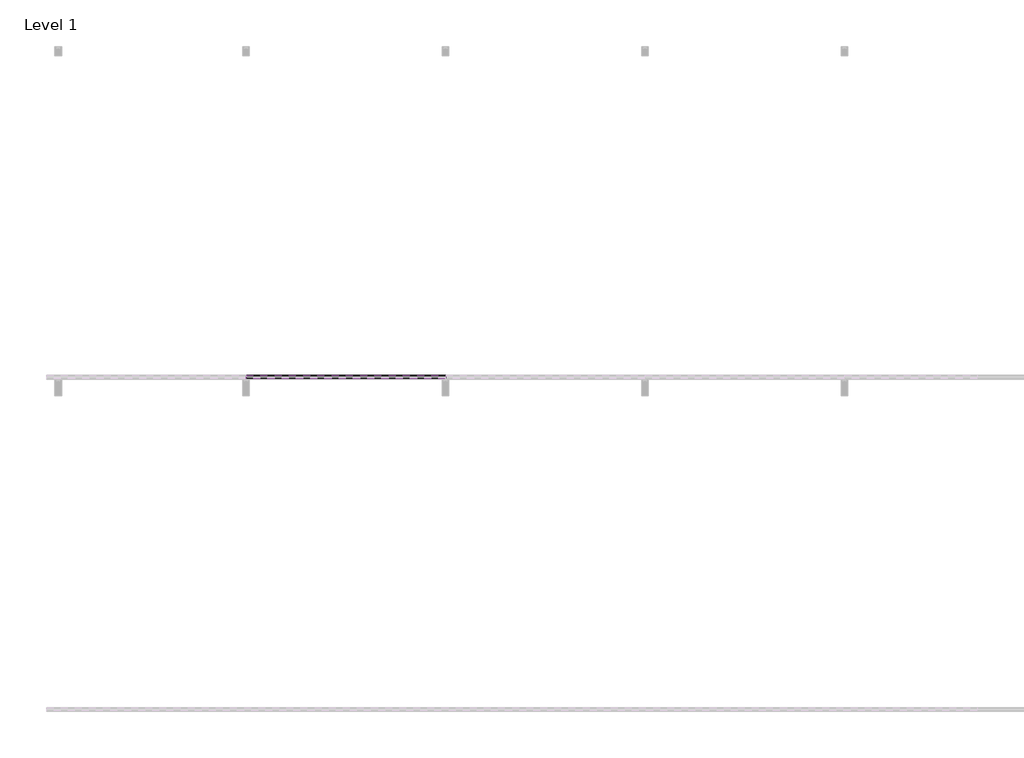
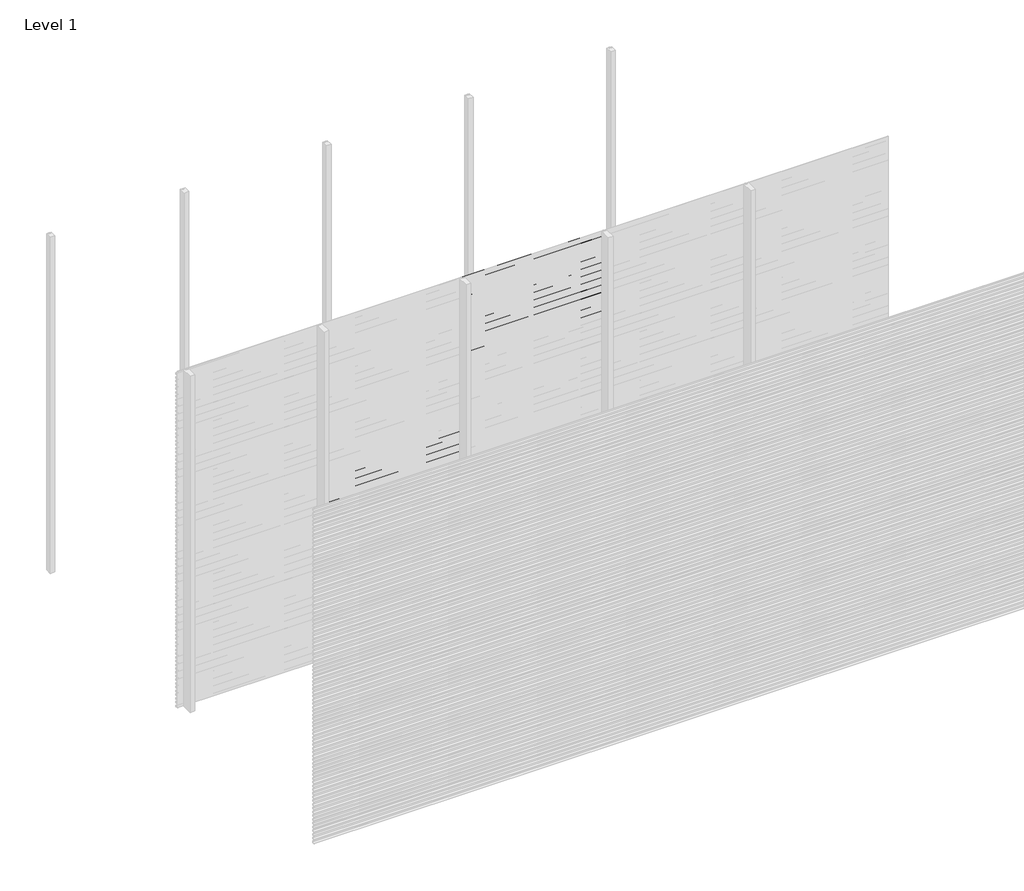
# One storey, part 29 of 77: 72 proxies.
"""IFC4 building model written with IfcOpenShell, lengths in millimetres."""

from ifc_helpers import new_model, si_unit, frame, origin, place, context, project, spatial, polyline, outline, extrude, element, save

model = new_model("IFC4")

# Units and contexts
model_context = context("Model", 3, world=origin())
ifc_project = project(units=[si_unit("LENGTHUNIT", "METRE", prefix="MILLI")], contexts=[model_context])

# Site, building, storey
site = spatial("IfcSite", under=ifc_project)
building = spatial("IfcBuilding", under=site)
storey = spatial("IfcBuildingStorey", under=building, Name="Level 1", Elevation=0.0)

# Proxies
placement = place(None, origin())
element("IfcBuildingElementProxy", 1, Name="Wall Sweeps", at=placement, inside=storey, context=model_context, shape_type="SweptSolid", body=[
    extrude(outline(polyline([(-35978.6, 1607.2359887), (-35998.0, 1618.4366691), (-35998.0, 1631.7), (-35997.0, 1631.7), (-35997.0, 1619.0191057), (-35977.6, 1607.8185105), (-35977.6, 1594.2185105), (-35978.6, 1595.7953129), (-35978.6, 1601.6032062), (-35995.9773817, 1593.5), (-35996.4, 1594.4063078), (-35978.6, 1602.7065841), (-35978.6, 1607.2359887)])), frame((1200.0, 0.0, 0.0), z_axis=(1.0, 0.0, 0.0), x_axis=(0.0, 1.0, 0.0)), (0.0, 0.0, 1.0), 1200.0),
])
element("IfcBuildingElementProxy", 2, Name="Wall Sweeps", at=placement, inside=storey, context=model_context, shape_type="SweptSolid", body=[
    extrude(outline(polyline([(-35978.6, 1573.9359887), (-35998.0, 1585.1366691), (-35998.0, 1598.4), (-35997.0, 1598.4), (-35997.0, 1585.7191057), (-35977.6, 1574.5185105), (-35977.6, 1560.9185105), (-35978.6, 1562.4953129), (-35978.6, 1568.3032062), (-35995.9773817, 1560.2), (-35996.4, 1561.1063078), (-35978.6, 1569.4065841), (-35978.6, 1573.9359887)])), frame((1200.0, 0.0, 0.0), z_axis=(1.0, 0.0, 0.0), x_axis=(0.0, 1.0, 0.0)), (0.0, 0.0, 1.0), 1200.0),
])
element("IfcBuildingElementProxy", 3, Name="Wall Sweeps", at=placement, inside=storey, context=model_context, shape_type="SweptSolid", body=[
    extrude(outline(polyline([(-35978.6, 1540.6359887), (-35998.0, 1551.8366691), (-35998.0, 1565.1), (-35997.0, 1565.1), (-35997.0, 1552.4191057), (-35977.6, 1541.2185105), (-35977.6, 1527.6185105), (-35978.6, 1529.1953129), (-35978.6, 1535.0032062), (-35995.9773817, 1526.9), (-35996.4, 1527.8063078), (-35978.6, 1536.1065841), (-35978.6, 1540.6359887)])), frame((1200.0, 0.0, 0.0), z_axis=(1.0, 0.0, 0.0), x_axis=(0.0, 1.0, 0.0)), (0.0, 0.0, 1.0), 1200.0),
])
element("IfcBuildingElementProxy", 4, Name="Wall Sweeps", at=placement, inside=storey, context=model_context, shape_type="SweptSolid", body=[
    extrude(outline(polyline([(-35978.6, 1507.3359887), (-35998.0, 1518.5366691), (-35998.0, 1531.8), (-35997.0, 1531.8), (-35997.0, 1519.1191057), (-35977.6, 1507.9185105), (-35977.6, 1494.3185105), (-35978.6, 1495.8953129), (-35978.6, 1501.7032062), (-35995.9773817, 1493.6), (-35996.4, 1494.5063078), (-35978.6, 1502.8065841), (-35978.6, 1507.3359887)])), frame((1200.0, 0.0, 0.0), z_axis=(1.0, 0.0, 0.0), x_axis=(0.0, 1.0, 0.0)), (0.0, 0.0, 1.0), 1200.0),
])
element("IfcBuildingElementProxy", 5, Name="Wall Sweeps", at=placement, inside=storey, context=model_context, shape_type="SweptSolid", body=[
    extrude(outline(polyline([(-35978.6, 1474.0359887), (-35998.0, 1485.2366691), (-35998.0, 1498.5), (-35997.0, 1498.5), (-35997.0, 1485.8191057), (-35977.6, 1474.6185105), (-35977.6, 1461.0185105), (-35978.6, 1462.5953129), (-35978.6, 1468.4032062), (-35995.9773817, 1460.3), (-35996.4, 1461.2063078), (-35978.6, 1469.5065841), (-35978.6, 1474.0359887)])), frame((1200.0, 0.0, 0.0), z_axis=(1.0, 0.0, 0.0), x_axis=(0.0, 1.0, 0.0)), (0.0, 0.0, 1.0), 1200.0),
])
element("IfcBuildingElementProxy", 6, Name="Wall Sweeps", at=placement, inside=storey, context=model_context, shape_type="SweptSolid", body=[
    extrude(outline(polyline([(-35978.6, 1440.7359887), (-35998.0, 1451.9366691), (-35998.0, 1465.2), (-35997.0, 1465.2), (-35997.0, 1452.5191057), (-35977.6, 1441.3185105), (-35977.6, 1427.7185105), (-35978.6, 1429.2953129), (-35978.6, 1435.1032062), (-35995.9773817, 1427.0), (-35996.4, 1427.9063078), (-35978.6, 1436.2065841), (-35978.6, 1440.7359887)])), frame((1200.0, 0.0, 0.0), z_axis=(1.0, 0.0, 0.0), x_axis=(0.0, 1.0, 0.0)), (0.0, 0.0, 1.0), 1200.0),
])
element("IfcBuildingElementProxy", 7, Name="Wall Sweeps", at=placement, inside=storey, context=model_context, shape_type="SweptSolid", body=[
    extrude(outline(polyline([(-35978.6, 1407.4359887), (-35998.0, 1418.6366691), (-35998.0, 1431.9), (-35997.0, 1431.9), (-35997.0, 1419.2191057), (-35977.6, 1408.0185105), (-35977.6, 1394.4185105), (-35978.6, 1395.9953129), (-35978.6, 1401.8032062), (-35995.9773817, 1393.7), (-35996.4, 1394.6063078), (-35978.6, 1402.9065841), (-35978.6, 1407.4359887)])), frame((1200.0, 0.0, 0.0), z_axis=(1.0, 0.0, 0.0), x_axis=(0.0, 1.0, 0.0)), (0.0, 0.0, 1.0), 1200.0),
])
element("IfcBuildingElementProxy", 8, Name="Wall Sweeps", at=placement, inside=storey, context=model_context, shape_type="SweptSolid", body=[
    extrude(outline(polyline([(-35978.6, 1374.1359887), (-35998.0, 1385.3366691), (-35998.0, 1398.6), (-35997.0, 1398.6), (-35997.0, 1385.9191057), (-35977.6, 1374.7185105), (-35977.6, 1361.1185105), (-35978.6, 1362.6953129), (-35978.6, 1368.5032062), (-35995.9773817, 1360.4), (-35996.4, 1361.3063078), (-35978.6, 1369.6065841), (-35978.6, 1374.1359887)])), frame((1200.0, 0.0, 0.0), z_axis=(1.0, 0.0, 0.0), x_axis=(0.0, 1.0, 0.0)), (0.0, 0.0, 1.0), 1200.0),
])
element("IfcBuildingElementProxy", 9, Name="Wall Sweeps", at=placement, inside=storey, context=model_context, shape_type="SweptSolid", body=[
    extrude(outline(polyline([(-35978.6, 1340.8359887), (-35998.0, 1352.0366691), (-35998.0, 1365.3), (-35997.0, 1365.3), (-35997.0, 1352.6191057), (-35977.6, 1341.4185105), (-35977.6, 1327.8185105), (-35978.6, 1329.3953129), (-35978.6, 1335.2032062), (-35995.9773817, 1327.1), (-35996.4, 1328.0063078), (-35978.6, 1336.3065841), (-35978.6, 1340.8359887)])), frame((1200.0, 0.0, 0.0), z_axis=(1.0, 0.0, 0.0), x_axis=(0.0, 1.0, 0.0)), (0.0, 0.0, 1.0), 1200.0),
])
element("IfcBuildingElementProxy", 10, Name="Wall Sweeps", at=placement, inside=storey, context=model_context, shape_type="SweptSolid", body=[
    extrude(outline(polyline([(-35978.6, 1307.5359887), (-35998.0, 1318.7366691), (-35998.0, 1332.0), (-35997.0, 1332.0), (-35997.0, 1319.3191057), (-35977.6, 1308.1185105), (-35977.6, 1294.5185105), (-35978.6, 1296.0953129), (-35978.6, 1301.9032062), (-35995.9773817, 1293.8), (-35996.4, 1294.7063078), (-35978.6, 1303.0065841), (-35978.6, 1307.5359887)])), frame((1200.0, 0.0, 0.0), z_axis=(1.0, 0.0, 0.0), x_axis=(0.0, 1.0, 0.0)), (0.0, 0.0, 1.0), 1200.0),
])
element("IfcBuildingElementProxy", 11, Name="Wall Sweeps", at=placement, inside=storey, context=model_context, shape_type="SweptSolid", body=[
    extrude(outline(polyline([(-35978.6, 1274.2359887), (-35998.0, 1285.4366691), (-35998.0, 1298.7), (-35997.0, 1298.7), (-35997.0, 1286.0191057), (-35977.6, 1274.8185105), (-35977.6, 1261.2185105), (-35978.6, 1262.7953129), (-35978.6, 1268.6032062), (-35995.9773817, 1260.5), (-35996.4, 1261.4063078), (-35978.6, 1269.7065841), (-35978.6, 1274.2359887)])), frame((1200.0, 0.0, 0.0), z_axis=(1.0, 0.0, 0.0), x_axis=(0.0, 1.0, 0.0)), (0.0, 0.0, 1.0), 1200.0),
])
element("IfcBuildingElementProxy", 12, Name="Wall Sweeps", at=placement, inside=storey, context=model_context, shape_type="SweptSolid", body=[
    extrude(outline(polyline([(-35978.6, 1240.9359887), (-35998.0, 1252.1366691), (-35998.0, 1265.4), (-35997.0, 1265.4), (-35997.0, 1252.7191057), (-35977.6, 1241.5185105), (-35977.6, 1227.9185105), (-35978.6, 1229.4953129), (-35978.6, 1235.3032062), (-35995.9773817, 1227.2), (-35996.4, 1228.1063078), (-35978.6, 1236.4065841), (-35978.6, 1240.9359887)])), frame((1200.0, 0.0, 0.0), z_axis=(1.0, 0.0, 0.0), x_axis=(0.0, 1.0, 0.0)), (0.0, 0.0, 1.0), 1200.0),
])
element("IfcBuildingElementProxy", 13, Name="Wall Sweeps", at=placement, inside=storey, context=model_context, shape_type="SweptSolid", body=[
    extrude(outline(polyline([(-35978.6, 1207.6359887), (-35998.0, 1218.8366691), (-35998.0, 1232.1), (-35997.0, 1232.1), (-35997.0, 1219.4191057), (-35977.6, 1208.2185105), (-35977.6, 1194.6185105), (-35978.6, 1196.1953129), (-35978.6, 1202.0032062), (-35995.9773817, 1193.9), (-35996.4, 1194.8063078), (-35978.6, 1203.1065841), (-35978.6, 1207.6359887)])), frame((1200.0, 0.0, 0.0), z_axis=(1.0, 0.0, 0.0), x_axis=(0.0, 1.0, 0.0)), (0.0, 0.0, 1.0), 1200.0),
])
element("IfcBuildingElementProxy", 14, Name="Wall Sweeps", at=placement, inside=storey, context=model_context, shape_type="SweptSolid", body=[
    extrude(outline(polyline([(-35978.6, 1174.3359887), (-35998.0, 1185.5366691), (-35998.0, 1198.8), (-35997.0, 1198.8), (-35997.0, 1186.1191057), (-35977.6, 1174.9185105), (-35977.6, 1161.3185105), (-35978.6, 1162.8953129), (-35978.6, 1168.7032062), (-35995.9773817, 1160.6), (-35996.4, 1161.5063078), (-35978.6, 1169.8065841), (-35978.6, 1174.3359887)])), frame((1200.0, 0.0, 0.0), z_axis=(1.0, 0.0, 0.0), x_axis=(0.0, 1.0, 0.0)), (0.0, 0.0, 1.0), 1200.0),
])
element("IfcBuildingElementProxy", 15, Name="Wall Sweeps", at=placement, inside=storey, context=model_context, shape_type="SweptSolid", body=[
    extrude(outline(polyline([(-35978.6, 1141.0359887), (-35998.0, 1152.2366691), (-35998.0, 1165.5), (-35997.0, 1165.5), (-35997.0, 1152.8191057), (-35977.6, 1141.6185105), (-35977.6, 1128.0185105), (-35978.6, 1129.5953129), (-35978.6, 1135.4032062), (-35995.9773817, 1127.3), (-35996.4, 1128.2063078), (-35978.6, 1136.5065841), (-35978.6, 1141.0359887)])), frame((1200.0, 0.0, 0.0), z_axis=(1.0, 0.0, 0.0), x_axis=(0.0, 1.0, 0.0)), (0.0, 0.0, 1.0), 1200.0),
])
element("IfcBuildingElementProxy", 16, Name="Wall Sweeps", at=placement, inside=storey, context=model_context, shape_type="SweptSolid", body=[
    extrude(outline(polyline([(-35978.6, 1107.7359887), (-35998.0, 1118.9366691), (-35998.0, 1132.2), (-35997.0, 1132.2), (-35997.0, 1119.5191057), (-35977.6, 1108.3185105), (-35977.6, 1094.7185105), (-35978.6, 1096.2953129), (-35978.6, 1102.1032062), (-35995.9773817, 1094.0), (-35996.4, 1094.9063078), (-35978.6, 1103.2065841), (-35978.6, 1107.7359887)])), frame((1200.0, 0.0, 0.0), z_axis=(1.0, 0.0, 0.0), x_axis=(0.0, 1.0, 0.0)), (0.0, 0.0, 1.0), 1200.0),
])
element("IfcBuildingElementProxy", 17, Name="Wall Sweeps", at=placement, inside=storey, context=model_context, shape_type="SweptSolid", body=[
    extrude(outline(polyline([(-35978.6, 1074.4359887), (-35998.0, 1085.6366691), (-35998.0, 1098.9), (-35997.0, 1098.9), (-35997.0, 1086.2191057), (-35977.6, 1075.0185105), (-35977.6, 1061.4185105), (-35978.6, 1062.9953129), (-35978.6, 1068.8032062), (-35995.9773817, 1060.7), (-35996.4, 1061.6063078), (-35978.6, 1069.9065841), (-35978.6, 1074.4359887)])), frame((1200.0, 0.0, 0.0), z_axis=(1.0, 0.0, 0.0), x_axis=(0.0, 1.0, 0.0)), (0.0, 0.0, 1.0), 1200.0),
])
element("IfcBuildingElementProxy", 18, Name="Wall Sweeps", at=placement, inside=storey, context=model_context, shape_type="SweptSolid", body=[
    extrude(outline(polyline([(-35978.6, 1041.1359887), (-35998.0, 1052.3366691), (-35998.0, 1065.6), (-35997.0, 1065.6), (-35997.0, 1052.9191057), (-35977.6, 1041.7185105), (-35977.6, 1028.1185105), (-35978.6, 1029.6953129), (-35978.6, 1035.5032062), (-35995.9773817, 1027.4), (-35996.4, 1028.3063078), (-35978.6, 1036.6065841), (-35978.6, 1041.1359887)])), frame((1200.0, 0.0, 0.0), z_axis=(1.0, 0.0, 0.0), x_axis=(0.0, 1.0, 0.0)), (0.0, 0.0, 1.0), 1200.0),
])
element("IfcBuildingElementProxy", 19, Name="Wall Sweeps", at=placement, inside=storey, context=model_context, shape_type="SweptSolid", body=[
    extrude(outline(polyline([(-35978.6, 1007.8359887), (-35998.0, 1019.0366691), (-35998.0, 1032.3), (-35997.0, 1032.3), (-35997.0, 1019.6191057), (-35977.6, 1008.4185105), (-35977.6, 994.8185105), (-35978.6, 996.3953129), (-35978.6, 1002.2032062), (-35995.9773817, 994.1), (-35996.4, 995.0063078), (-35978.6, 1003.3065841), (-35978.6, 1007.8359887)])), frame((1200.0, 0.0, 0.0), z_axis=(1.0, 0.0, 0.0), x_axis=(0.0, 1.0, 0.0)), (0.0, 0.0, 1.0), 1200.0),
])
element("IfcBuildingElementProxy", 20, Name="Wall Sweeps", at=placement, inside=storey, context=model_context, shape_type="SweptSolid", body=[
    extrude(outline(polyline([(-35978.6, 974.5359887), (-35998.0, 985.7366691), (-35998.0, 999.0), (-35997.0, 999.0), (-35997.0, 986.3191057), (-35977.6, 975.1185105), (-35977.6, 961.5185105), (-35978.6, 963.0953129), (-35978.6, 968.9032062), (-35995.9773817, 960.8), (-35996.4, 961.7063078), (-35978.6, 970.0065841), (-35978.6, 974.5359887)])), frame((1200.0, 0.0, 0.0), z_axis=(1.0, 0.0, 0.0), x_axis=(0.0, 1.0, 0.0)), (0.0, 0.0, 1.0), 1200.0),
])
element("IfcBuildingElementProxy", 21, Name="Wall Sweeps", at=placement, inside=storey, context=model_context, shape_type="SweptSolid", body=[
    extrude(outline(polyline([(-35978.6, 941.2359887), (-35998.0, 952.4366691), (-35998.0, 965.7), (-35997.0, 965.7), (-35997.0, 953.0191057), (-35977.6, 941.8185105), (-35977.6, 928.2185105), (-35978.6, 929.7953129), (-35978.6, 935.6032062), (-35995.9773817, 927.5), (-35996.4, 928.4063078), (-35978.6, 936.7065841), (-35978.6, 941.2359887)])), frame((1200.0, 0.0, 0.0), z_axis=(1.0, 0.0, 0.0), x_axis=(0.0, 1.0, 0.0)), (0.0, 0.0, 1.0), 1200.0),
])
element("IfcBuildingElementProxy", 22, Name="Wall Sweeps", at=placement, inside=storey, context=model_context, shape_type="SweptSolid", body=[
    extrude(outline(polyline([(-35978.6, 907.9359887), (-35998.0, 919.1366691), (-35998.0, 932.4), (-35997.0, 932.4), (-35997.0, 919.7191057), (-35977.6, 908.5185105), (-35977.6, 894.9185105), (-35978.6, 896.4953129), (-35978.6, 902.3032062), (-35995.9773817, 894.2), (-35996.4, 895.1063078), (-35978.6, 903.4065841), (-35978.6, 907.9359887)])), frame((1200.0, 0.0, 0.0), z_axis=(1.0, 0.0, 0.0), x_axis=(0.0, 1.0, 0.0)), (0.0, 0.0, 1.0), 1200.0),
])
element("IfcBuildingElementProxy", 23, Name="Wall Sweeps", at=placement, inside=storey, context=model_context, shape_type="SweptSolid", body=[
    extrude(outline(polyline([(-35978.6, 874.6359887), (-35998.0, 885.8366691), (-35998.0, 899.1), (-35997.0, 899.1), (-35997.0, 886.4191057), (-35977.6, 875.2185105), (-35977.6, 861.6185105), (-35978.6, 863.1953129), (-35978.6, 869.0032062), (-35995.9773817, 860.9), (-35996.4, 861.8063078), (-35978.6, 870.1065841), (-35978.6, 874.6359887)])), frame((1200.0, 0.0, 0.0), z_axis=(1.0, 0.0, 0.0), x_axis=(0.0, 1.0, 0.0)), (0.0, 0.0, 1.0), 1200.0),
])
element("IfcBuildingElementProxy", 24, Name="Wall Sweeps", at=placement, inside=storey, context=model_context, shape_type="SweptSolid", body=[
    extrude(outline(polyline([(-35978.6, 841.3359887), (-35998.0, 852.5366691), (-35998.0, 865.8), (-35997.0, 865.8), (-35997.0, 853.1191057), (-35977.6, 841.9185105), (-35977.6, 828.3185105), (-35978.6, 829.8953129), (-35978.6, 835.7032062), (-35995.9773817, 827.6), (-35996.4, 828.5063078), (-35978.6, 836.8065841), (-35978.6, 841.3359887)])), frame((1200.0, 0.0, 0.0), z_axis=(1.0, 0.0, 0.0), x_axis=(0.0, 1.0, 0.0)), (0.0, 0.0, 1.0), 1200.0),
])
element("IfcBuildingElementProxy", 25, Name="Wall Sweeps", at=placement, inside=storey, context=model_context, shape_type="SweptSolid", body=[
    extrude(outline(polyline([(-35978.6, 808.0359887), (-35998.0, 819.2366691), (-35998.0, 832.5), (-35997.0, 832.5), (-35997.0, 819.8191057), (-35977.6, 808.6185105), (-35977.6, 795.0185105), (-35978.6, 796.5953129), (-35978.6, 802.4032062), (-35995.9773817, 794.3), (-35996.4, 795.2063078), (-35978.6, 803.5065841), (-35978.6, 808.0359887)])), frame((1200.0, 0.0, 0.0), z_axis=(1.0, 0.0, 0.0), x_axis=(0.0, 1.0, 0.0)), (0.0, 0.0, 1.0), 1200.0),
])
element("IfcBuildingElementProxy", 26, Name="Wall Sweeps", at=placement, inside=storey, context=model_context, shape_type="SweptSolid", body=[
    extrude(outline(polyline([(-35978.6, 774.7359887), (-35998.0, 785.9366691), (-35998.0, 799.2), (-35997.0, 799.2), (-35997.0, 786.5191057), (-35977.6, 775.3185105), (-35977.6, 761.7185105), (-35978.6, 763.2953129), (-35978.6, 769.1032062), (-35995.9773817, 761.0), (-35996.4, 761.9063078), (-35978.6, 770.2065841), (-35978.6, 774.7359887)])), frame((1200.0, 0.0, 0.0), z_axis=(1.0, 0.0, 0.0), x_axis=(0.0, 1.0, 0.0)), (0.0, 0.0, 1.0), 1200.0),
])
element("IfcBuildingElementProxy", 27, Name="Wall Sweeps", at=placement, inside=storey, context=model_context, shape_type="SweptSolid", body=[
    extrude(outline(polyline([(-35978.6, 741.4359887), (-35998.0, 752.6366691), (-35998.0, 765.9), (-35997.0, 765.9), (-35997.0, 753.2191057), (-35977.6, 742.0185105), (-35977.6, 728.4185105), (-35978.6, 729.9953129), (-35978.6, 735.8032062), (-35995.9773817, 727.7), (-35996.4, 728.6063078), (-35978.6, 736.9065841), (-35978.6, 741.4359887)])), frame((1200.0, 0.0, 0.0), z_axis=(1.0, 0.0, 0.0), x_axis=(0.0, 1.0, 0.0)), (0.0, 0.0, 1.0), 1200.0),
])
element("IfcBuildingElementProxy", 28, Name="Wall Sweeps", at=placement, inside=storey, context=model_context, shape_type="SweptSolid", body=[
    extrude(outline(polyline([(-35978.6, 708.1359887), (-35998.0, 719.3366691), (-35998.0, 732.6), (-35997.0, 732.6), (-35997.0, 719.9191057), (-35977.6, 708.7185105), (-35977.6, 695.1185105), (-35978.6, 696.6953129), (-35978.6, 702.5032062), (-35995.9773817, 694.4), (-35996.4, 695.3063078), (-35978.6, 703.6065841), (-35978.6, 708.1359887)])), frame((1200.0, 0.0, 0.0), z_axis=(1.0, 0.0, 0.0), x_axis=(0.0, 1.0, 0.0)), (0.0, 0.0, 1.0), 1200.0),
])
element("IfcBuildingElementProxy", 29, Name="Wall Sweeps", at=placement, inside=storey, context=model_context, shape_type="SweptSolid", body=[
    extrude(outline(polyline([(-35978.6, 674.8359887), (-35998.0, 686.0366691), (-35998.0, 699.3), (-35997.0, 699.3), (-35997.0, 686.6191057), (-35977.6, 675.4185105), (-35977.6, 661.8185105), (-35978.6, 663.3953129), (-35978.6, 669.2032062), (-35995.9773817, 661.1), (-35996.4, 662.0063078), (-35978.6, 670.3065841), (-35978.6, 674.8359887)])), frame((1200.0, 0.0, 0.0), z_axis=(1.0, 0.0, 0.0), x_axis=(0.0, 1.0, 0.0)), (0.0, 0.0, 1.0), 1200.0),
])
element("IfcBuildingElementProxy", 30, Name="Wall Sweeps", at=placement, inside=storey, context=model_context, shape_type="SweptSolid", body=[
    extrude(outline(polyline([(-35978.6, 641.5359887), (-35998.0, 652.7366691), (-35998.0, 666.0), (-35997.0, 666.0), (-35997.0, 653.3191057), (-35977.6, 642.1185105), (-35977.6, 628.5185105), (-35978.6, 630.0953129), (-35978.6, 635.9032062), (-35995.9773817, 627.8), (-35996.4, 628.7063078), (-35978.6, 637.0065841), (-35978.6, 641.5359887)])), frame((1200.0, 0.0, 0.0), z_axis=(1.0, 0.0, 0.0), x_axis=(0.0, 1.0, 0.0)), (0.0, 0.0, 1.0), 1200.0),
])
element("IfcBuildingElementProxy", 31, Name="Wall Sweeps", at=placement, inside=storey, context=model_context, shape_type="SweptSolid", body=[
    extrude(outline(polyline([(-35978.6, 608.2359887), (-35998.0, 619.4366691), (-35998.0, 632.7), (-35997.0, 632.7), (-35997.0, 620.0191057), (-35977.6, 608.8185105), (-35977.6, 595.2185105), (-35978.6, 596.7953129), (-35978.6, 602.6032062), (-35995.9773817, 594.5), (-35996.4, 595.4063078), (-35978.6, 603.7065841), (-35978.6, 608.2359887)])), frame((1200.0, 0.0, 0.0), z_axis=(1.0, 0.0, 0.0), x_axis=(0.0, 1.0, 0.0)), (0.0, 0.0, 1.0), 1200.0),
])
element("IfcBuildingElementProxy", 32, Name="Wall Sweeps", at=placement, inside=storey, context=model_context, shape_type="SweptSolid", body=[
    extrude(outline(polyline([(-35978.6, 574.9359887), (-35998.0, 586.1366691), (-35998.0, 599.4), (-35997.0, 599.4), (-35997.0, 586.7191057), (-35977.6, 575.5185105), (-35977.6, 561.9185105), (-35978.6, 563.4953129), (-35978.6, 569.3032062), (-35995.9773817, 561.2), (-35996.4, 562.1063078), (-35978.6, 570.4065841), (-35978.6, 574.9359887)])), frame((1200.0, 0.0, 0.0), z_axis=(1.0, 0.0, 0.0), x_axis=(0.0, 1.0, 0.0)), (0.0, 0.0, 1.0), 1200.0),
])
element("IfcBuildingElementProxy", 33, Name="Wall Sweeps", at=placement, inside=storey, context=model_context, shape_type="SweptSolid", body=[
    extrude(outline(polyline([(-35978.6, 541.6359887), (-35998.0, 552.8366691), (-35998.0, 566.1), (-35997.0, 566.1), (-35997.0, 553.4191057), (-35977.6, 542.2185105), (-35977.6, 528.6185105), (-35978.6, 530.1953129), (-35978.6, 536.0032062), (-35995.9773817, 527.9), (-35996.4, 528.8063078), (-35978.6, 537.1065841), (-35978.6, 541.6359887)])), frame((1200.0, 0.0, 0.0), z_axis=(1.0, 0.0, 0.0), x_axis=(0.0, 1.0, 0.0)), (0.0, 0.0, 1.0), 1200.0),
])
element("IfcBuildingElementProxy", 34, Name="Wall Sweeps", at=placement, inside=storey, context=model_context, shape_type="SweptSolid", body=[
    extrude(outline(polyline([(-35978.6, 508.3359887), (-35998.0, 519.5366691), (-35998.0, 532.8), (-35997.0, 532.8), (-35997.0, 520.1191057), (-35977.6, 508.9185105), (-35977.6, 495.3185105), (-35978.6, 496.8953129), (-35978.6, 502.7032062), (-35995.9773817, 494.6), (-35996.4, 495.5063078), (-35978.6, 503.8065841), (-35978.6, 508.3359887)])), frame((1200.0, 0.0, 0.0), z_axis=(1.0, 0.0, 0.0), x_axis=(0.0, 1.0, 0.0)), (0.0, 0.0, 1.0), 1200.0),
])
element("IfcBuildingElementProxy", 35, Name="Wall Sweeps", at=placement, inside=storey, context=model_context, shape_type="SweptSolid", body=[
    extrude(outline(polyline([(-35978.6, 475.0359887), (-35998.0, 486.2366691), (-35998.0, 499.5), (-35997.0, 499.5), (-35997.0, 486.8191057), (-35977.6, 475.6185105), (-35977.6, 462.0185105), (-35978.6, 463.5953129), (-35978.6, 469.4032062), (-35995.9773817, 461.3), (-35996.4, 462.2063078), (-35978.6, 470.5065841), (-35978.6, 475.0359887)])), frame((1200.0, 0.0, 0.0), z_axis=(1.0, 0.0, 0.0), x_axis=(0.0, 1.0, 0.0)), (0.0, 0.0, 1.0), 1200.0),
])
element("IfcBuildingElementProxy", 36, Name="Wall Sweeps", at=placement, inside=storey, context=model_context, shape_type="SweptSolid", body=[
    extrude(outline(polyline([(-35978.6, 441.7359887), (-35998.0, 452.9366691), (-35998.0, 466.2), (-35997.0, 466.2), (-35997.0, 453.5191057), (-35977.6, 442.3185105), (-35977.6, 428.7185105), (-35978.6, 430.2953129), (-35978.6, 436.1032062), (-35995.9773817, 428.0), (-35996.4, 428.9063078), (-35978.6, 437.2065841), (-35978.6, 441.7359887)])), frame((1200.0, 0.0, 0.0), z_axis=(1.0, 0.0, 0.0), x_axis=(0.0, 1.0, 0.0)), (0.0, 0.0, 1.0), 1200.0),
])
element("IfcBuildingElementProxy", 37, Name="Wall Sweeps", at=placement, inside=storey, context=model_context, shape_type="SweptSolid", body=[
    extrude(outline(polyline([(-35978.6, 408.4359887), (-35998.0, 419.6366691), (-35998.0, 432.9), (-35997.0, 432.9), (-35997.0, 420.2191057), (-35977.6, 409.0185105), (-35977.6, 395.4185105), (-35978.6, 396.9953129), (-35978.6, 402.8032062), (-35995.9773817, 394.7), (-35996.4, 395.6063078), (-35978.6, 403.9065841), (-35978.6, 408.4359887)])), frame((1200.0, 0.0, 0.0), z_axis=(1.0, 0.0, 0.0), x_axis=(0.0, 1.0, 0.0)), (0.0, 0.0, 1.0), 1200.0),
])
element("IfcBuildingElementProxy", 38, Name="Wall Sweeps", at=placement, inside=storey, context=model_context, shape_type="SweptSolid", body=[
    extrude(outline(polyline([(-35978.6, 375.1359887), (-35998.0, 386.3366691), (-35998.0, 399.6), (-35997.0, 399.6), (-35997.0, 386.9191057), (-35977.6, 375.7185105), (-35977.6, 362.1185105), (-35978.6, 363.6953129), (-35978.6, 369.5032062), (-35995.9773817, 361.4), (-35996.4, 362.3063078), (-35978.6, 370.6065841), (-35978.6, 375.1359887)])), frame((1200.0, 0.0, 0.0), z_axis=(1.0, 0.0, 0.0), x_axis=(0.0, 1.0, 0.0)), (0.0, 0.0, 1.0), 1200.0),
])
element("IfcBuildingElementProxy", 39, Name="Wall Sweeps", at=placement, inside=storey, context=model_context, shape_type="SweptSolid", body=[
    extrude(outline(polyline([(-35978.6, 341.8359887), (-35998.0, 353.0366691), (-35998.0, 366.3), (-35997.0, 366.3), (-35997.0, 353.6191057), (-35977.6, 342.4185105), (-35977.6, 328.8185105), (-35978.6, 330.3953129), (-35978.6, 336.2032062), (-35995.9773817, 328.1), (-35996.4, 329.0063078), (-35978.6, 337.3065841), (-35978.6, 341.8359887)])), frame((1200.0, 0.0, 0.0), z_axis=(1.0, 0.0, 0.0), x_axis=(0.0, 1.0, 0.0)), (0.0, 0.0, 1.0), 1200.0),
])
element("IfcBuildingElementProxy", 40, Name="Wall Sweeps", at=placement, inside=storey, context=model_context, shape_type="SweptSolid", body=[
    extrude(outline(polyline([(-35978.6, 308.5359887), (-35998.0, 319.7366691), (-35998.0, 333.0), (-35997.0, 333.0), (-35997.0, 320.3191057), (-35977.6, 309.1185105), (-35977.6, 295.5185105), (-35978.6, 297.0953129), (-35978.6, 302.9032062), (-35995.9773817, 294.8), (-35996.4, 295.7063078), (-35978.6, 304.0065841), (-35978.6, 308.5359887)])), frame((1200.0, 0.0, 0.0), z_axis=(1.0, 0.0, 0.0), x_axis=(0.0, 1.0, 0.0)), (0.0, 0.0, 1.0), 1200.0),
])
element("IfcBuildingElementProxy", 41, Name="Wall Sweeps", at=placement, inside=storey, context=model_context, shape_type="SweptSolid", body=[
    extrude(outline(polyline([(-35978.6, 275.2359887), (-35998.0, 286.4366691), (-35998.0, 299.7), (-35997.0, 299.7), (-35997.0, 287.0191057), (-35977.6, 275.8185105), (-35977.6, 262.2185105), (-35978.6, 263.7953129), (-35978.6, 269.6032062), (-35995.9773817, 261.5), (-35996.4, 262.4063078), (-35978.6, 270.7065841), (-35978.6, 275.2359887)])), frame((1200.0, 0.0, 0.0), z_axis=(1.0, 0.0, 0.0), x_axis=(0.0, 1.0, 0.0)), (0.0, 0.0, 1.0), 1200.0),
])
element("IfcBuildingElementProxy", 42, Name="Wall Sweeps", at=placement, inside=storey, context=model_context, shape_type="SweptSolid", body=[
    extrude(outline(polyline([(-35978.6, 241.9359887), (-35998.0, 253.1366691), (-35998.0, 266.4), (-35997.0, 266.4), (-35997.0, 253.7191057), (-35977.6, 242.5185105), (-35977.6, 228.9185105), (-35978.6, 230.4953129), (-35978.6, 236.3032062), (-35995.9773817, 228.2), (-35996.4, 229.1063078), (-35978.6, 237.4065841), (-35978.6, 241.9359887)])), frame((1200.0, 0.0, 0.0), z_axis=(1.0, 0.0, 0.0), x_axis=(0.0, 1.0, 0.0)), (0.0, 0.0, 1.0), 1200.0),
])
element("IfcBuildingElementProxy", 43, Name="Wall Sweeps", at=placement, inside=storey, context=model_context, shape_type="SweptSolid", body=[
    extrude(outline(polyline([(-35978.6, 208.6359887), (-35998.0, 219.8366691), (-35998.0, 233.1), (-35997.0, 233.1), (-35997.0, 220.4191057), (-35977.6, 209.2185105), (-35977.6, 195.6185105), (-35978.6, 197.1953129), (-35978.6, 203.0032062), (-35995.9773817, 194.9), (-35996.4, 195.8063078), (-35978.6, 204.1065841), (-35978.6, 208.6359887)])), frame((1200.0, 0.0, 0.0), z_axis=(1.0, 0.0, 0.0), x_axis=(0.0, 1.0, 0.0)), (0.0, 0.0, 1.0), 1200.0),
])
element("IfcBuildingElementProxy", 44, Name="Wall Sweeps", at=placement, inside=storey, context=model_context, shape_type="SweptSolid", body=[
    extrude(outline(polyline([(-35978.6, 175.3359887), (-35998.0, 186.5366691), (-35998.0, 199.8), (-35997.0, 199.8), (-35997.0, 187.1191057), (-35977.6, 175.9185105), (-35977.6, 162.3185105), (-35978.6, 163.8953129), (-35978.6, 169.7032062), (-35995.9773817, 161.6), (-35996.4, 162.5063078), (-35978.6, 170.8065841), (-35978.6, 175.3359887)])), frame((1200.0, 0.0, 0.0), z_axis=(1.0, 0.0, 0.0), x_axis=(0.0, 1.0, 0.0)), (0.0, 0.0, 1.0), 1200.0),
])
element("IfcBuildingElementProxy", 45, Name="Wall Sweeps", at=placement, inside=storey, context=model_context, shape_type="SweptSolid", body=[
    extrude(outline(polyline([(-35978.6, 142.0359887), (-35998.0, 153.2366691), (-35998.0, 166.5), (-35997.0, 166.5), (-35997.0, 153.8191057), (-35977.6, 142.6185105), (-35977.6, 129.0185105), (-35978.6, 130.5953129), (-35978.6, 136.4032062), (-35995.9773817, 128.3), (-35996.4, 129.2063078), (-35978.6, 137.5065841), (-35978.6, 142.0359887)])), frame((1200.0, 0.0, 0.0), z_axis=(1.0, 0.0, 0.0), x_axis=(0.0, 1.0, 0.0)), (0.0, 0.0, 1.0), 1200.0),
])
element("IfcBuildingElementProxy", 46, Name="Wall Sweeps", at=placement, inside=storey, context=model_context, shape_type="SweptSolid", body=[
    extrude(outline(polyline([(-35978.6, 108.7359887), (-35998.0, 119.9366691), (-35998.0, 133.2), (-35997.0, 133.2), (-35997.0, 120.5191057), (-35977.6, 109.3185105), (-35977.6, 95.7185105), (-35978.6, 97.2953129), (-35978.6, 103.1032062), (-35995.9773817, 95.0), (-35996.4, 95.9063078), (-35978.6, 104.2065841), (-35978.6, 108.7359887)])), frame((1200.0, 0.0, 0.0), z_axis=(1.0, 0.0, 0.0), x_axis=(0.0, 1.0, 0.0)), (0.0, 0.0, 1.0), 1200.0),
])
element("IfcBuildingElementProxy", 47, Name="Wall Sweeps", at=placement, inside=storey, context=model_context, shape_type="SweptSolid", body=[
    extrude(outline(polyline([(-35978.6, 75.4359887), (-35998.0, 86.6366691), (-35998.0, 99.9), (-35997.0, 99.9), (-35997.0, 87.2191057), (-35977.6, 76.0185105), (-35977.6, 62.4185105), (-35978.6, 63.9953129), (-35978.6, 69.8032062), (-35995.9773817, 61.7), (-35996.4, 62.6063078), (-35978.6, 70.9065841), (-35978.6, 75.4359887)])), frame((1200.0, 0.0, 0.0), z_axis=(1.0, 0.0, 0.0), x_axis=(0.0, 1.0, 0.0)), (0.0, 0.0, 1.0), 1200.0),
])
element("IfcBuildingElementProxy", 48, Name="Wall Sweeps", at=placement, inside=storey, context=model_context, shape_type="SweptSolid", body=[
    extrude(outline(polyline([(-35978.6, 42.1359887), (-35998.0, 53.3366691), (-35998.0, 66.6), (-35997.0, 66.6), (-35997.0, 53.9191057), (-35977.6, 42.7185105), (-35977.6, 29.1185105), (-35978.6, 30.6953129), (-35978.6, 36.5032062), (-35995.9773817, 28.4), (-35996.4, 29.3063078), (-35978.6, 37.6065841), (-35978.6, 42.1359887)])), frame((1200.0, 0.0, 0.0), z_axis=(1.0, 0.0, 0.0), x_axis=(0.0, 1.0, 0.0)), (0.0, 0.0, 1.0), 1200.0),
])
element("IfcBuildingElementProxy", 49, Name="Wall Sweeps", at=placement, inside=storey, context=model_context, shape_type="SweptSolid", body=[
    extrude(outline(polyline([(-35978.6, 8.8359887), (-35998.0, 20.0366691), (-35998.0, 33.3), (-35997.0, 33.3), (-35997.0, 20.6191057), (-35977.6, 9.4185105), (-35977.6, -4.1814895), (-35978.6, -2.6046871), (-35978.6, 3.2032062), (-35995.9773817, -4.9), (-35996.4, -3.9936922), (-35978.6, 4.3065841), (-35978.6, 8.8359887)])), frame((1200.0, 0.0, 0.0), z_axis=(1.0, 0.0, 0.0), x_axis=(0.0, 1.0, 0.0)), (0.0, 0.0, 1.0), 1200.0),
])
element("IfcBuildingElementProxy", 50, Name="Wall Sweeps", at=placement, inside=storey, context=model_context, shape_type="SweptSolid", body=[
    extrude(outline(polyline([(-35978.6, 2972.5359887), (-35998.0, 2983.7366691), (-35998.0, 2997.0), (-35997.0, 2997.0), (-35997.0, 2984.3191057), (-35977.6, 2973.1185105), (-35977.6, 2959.5185105), (-35978.6, 2961.0953129), (-35978.6, 2966.9032062), (-35995.9773817, 2958.8), (-35996.4, 2959.7063078), (-35978.6, 2968.0065841), (-35978.6, 2972.5359887)])), frame((2400.0, 0.0, 0.0), z_axis=(1.0, 0.0, 0.0), x_axis=(0.0, 1.0, 0.0)), (0.0, 0.0, 1.0), 1200.0),
])
element("IfcBuildingElementProxy", 51, Name="Wall Sweeps", at=placement, inside=storey, context=model_context, shape_type="SweptSolid", body=[
    extrude(outline(polyline([(-35978.6, 2939.2359887), (-35998.0, 2950.4366691), (-35998.0, 2963.7), (-35997.0, 2963.7), (-35997.0, 2951.0191057), (-35977.6, 2939.8185105), (-35977.6, 2926.2185105), (-35978.6, 2927.7953129), (-35978.6, 2933.6032062), (-35995.9773817, 2925.5), (-35996.4, 2926.4063078), (-35978.6, 2934.7065841), (-35978.6, 2939.2359887)])), frame((2400.0, 0.0, 0.0), z_axis=(1.0, 0.0, 0.0), x_axis=(0.0, 1.0, 0.0)), (0.0, 0.0, 1.0), 1200.0),
])
element("IfcBuildingElementProxy", 52, Name="Wall Sweeps", at=placement, inside=storey, context=model_context, shape_type="SweptSolid", body=[
    extrude(outline(polyline([(-35978.6, 2905.9359887), (-35998.0, 2917.1366691), (-35998.0, 2930.4), (-35997.0, 2930.4), (-35997.0, 2917.7191057), (-35977.6, 2906.5185105), (-35977.6, 2892.9185105), (-35978.6, 2894.4953129), (-35978.6, 2900.3032062), (-35995.9773817, 2892.2), (-35996.4, 2893.1063078), (-35978.6, 2901.4065841), (-35978.6, 2905.9359887)])), frame((2400.0, 0.0, 0.0), z_axis=(1.0, 0.0, 0.0), x_axis=(0.0, 1.0, 0.0)), (0.0, 0.0, 1.0), 1200.0),
])
element("IfcBuildingElementProxy", 53, Name="Wall Sweeps", at=placement, inside=storey, context=model_context, shape_type="SweptSolid", body=[
    extrude(outline(polyline([(-35978.6, 2872.6359887), (-35998.0, 2883.8366691), (-35998.0, 2897.1), (-35997.0, 2897.1), (-35997.0, 2884.4191057), (-35977.6, 2873.2185105), (-35977.6, 2859.6185105), (-35978.6, 2861.1953129), (-35978.6, 2867.0032062), (-35995.9773817, 2858.9), (-35996.4, 2859.8063078), (-35978.6, 2868.1065841), (-35978.6, 2872.6359887)])), frame((2400.0, 0.0, 0.0), z_axis=(1.0, 0.0, 0.0), x_axis=(0.0, 1.0, 0.0)), (0.0, 0.0, 1.0), 1200.0),
])
element("IfcBuildingElementProxy", 54, Name="Wall Sweeps", at=placement, inside=storey, context=model_context, shape_type="SweptSolid", body=[
    extrude(outline(polyline([(-35978.6, 2839.3359887), (-35998.0, 2850.5366691), (-35998.0, 2863.8), (-35997.0, 2863.8), (-35997.0, 2851.1191057), (-35977.6, 2839.9185105), (-35977.6, 2826.3185105), (-35978.6, 2827.8953129), (-35978.6, 2833.7032062), (-35995.9773817, 2825.6), (-35996.4, 2826.5063078), (-35978.6, 2834.8065841), (-35978.6, 2839.3359887)])), frame((2400.0, 0.0, 0.0), z_axis=(1.0, 0.0, 0.0), x_axis=(0.0, 1.0, 0.0)), (0.0, 0.0, 1.0), 1200.0),
])
element("IfcBuildingElementProxy", 55, Name="Wall Sweeps", at=placement, inside=storey, context=model_context, shape_type="SweptSolid", body=[
    extrude(outline(polyline([(-35978.6, 2806.0359887), (-35998.0, 2817.2366691), (-35998.0, 2830.5), (-35997.0, 2830.5), (-35997.0, 2817.8191057), (-35977.6, 2806.6185105), (-35977.6, 2793.0185105), (-35978.6, 2794.5953129), (-35978.6, 2800.4032062), (-35995.9773817, 2792.3), (-35996.4, 2793.2063078), (-35978.6, 2801.5065841), (-35978.6, 2806.0359887)])), frame((2400.0, 0.0, 0.0), z_axis=(1.0, 0.0, 0.0), x_axis=(0.0, 1.0, 0.0)), (0.0, 0.0, 1.0), 1200.0),
])
element("IfcBuildingElementProxy", 56, Name="Wall Sweeps", at=placement, inside=storey, context=model_context, shape_type="SweptSolid", body=[
    extrude(outline(polyline([(-35978.6, 2772.7359887), (-35998.0, 2783.9366691), (-35998.0, 2797.2), (-35997.0, 2797.2), (-35997.0, 2784.5191057), (-35977.6, 2773.3185105), (-35977.6, 2759.7185105), (-35978.6, 2761.2953129), (-35978.6, 2767.1032062), (-35995.9773817, 2759.0), (-35996.4, 2759.9063078), (-35978.6, 2768.2065841), (-35978.6, 2772.7359887)])), frame((2400.0, 0.0, 0.0), z_axis=(1.0, 0.0, 0.0), x_axis=(0.0, 1.0, 0.0)), (0.0, 0.0, 1.0), 1200.0),
])
element("IfcBuildingElementProxy", 57, Name="Wall Sweeps", at=placement, inside=storey, context=model_context, shape_type="SweptSolid", body=[
    extrude(outline(polyline([(-35978.6, 2739.4359887), (-35998.0, 2750.6366691), (-35998.0, 2763.9), (-35997.0, 2763.9), (-35997.0, 2751.2191057), (-35977.6, 2740.0185105), (-35977.6, 2726.4185105), (-35978.6, 2727.9953129), (-35978.6, 2733.8032062), (-35995.9773817, 2725.7), (-35996.4, 2726.6063078), (-35978.6, 2734.9065841), (-35978.6, 2739.4359887)])), frame((2400.0, 0.0, 0.0), z_axis=(1.0, 0.0, 0.0), x_axis=(0.0, 1.0, 0.0)), (0.0, 0.0, 1.0), 1200.0),
])
element("IfcBuildingElementProxy", 58, Name="Wall Sweeps", at=placement, inside=storey, context=model_context, shape_type="SweptSolid", body=[
    extrude(outline(polyline([(-35978.6, 2706.1359887), (-35998.0, 2717.3366691), (-35998.0, 2730.6), (-35997.0, 2730.6), (-35997.0, 2717.9191057), (-35977.6, 2706.7185105), (-35977.6, 2693.1185105), (-35978.6, 2694.6953129), (-35978.6, 2700.5032062), (-35995.9773817, 2692.4), (-35996.4, 2693.3063078), (-35978.6, 2701.6065841), (-35978.6, 2706.1359887)])), frame((2400.0, 0.0, 0.0), z_axis=(1.0, 0.0, 0.0), x_axis=(0.0, 1.0, 0.0)), (0.0, 0.0, 1.0), 1200.0),
])
element("IfcBuildingElementProxy", 59, Name="Wall Sweeps", at=placement, inside=storey, context=model_context, shape_type="SweptSolid", body=[
    extrude(outline(polyline([(-35978.6, 2672.8359887), (-35998.0, 2684.0366691), (-35998.0, 2697.3), (-35997.0, 2697.3), (-35997.0, 2684.6191057), (-35977.6, 2673.4185105), (-35977.6, 2659.8185105), (-35978.6, 2661.3953129), (-35978.6, 2667.2032062), (-35995.9773817, 2659.1), (-35996.4, 2660.0063078), (-35978.6, 2668.3065841), (-35978.6, 2672.8359887)])), frame((2400.0, 0.0, 0.0), z_axis=(1.0, 0.0, 0.0), x_axis=(0.0, 1.0, 0.0)), (0.0, 0.0, 1.0), 1200.0),
])
element("IfcBuildingElementProxy", 60, Name="Wall Sweeps", at=placement, inside=storey, context=model_context, shape_type="SweptSolid", body=[
    extrude(outline(polyline([(-35978.6, 2639.5359887), (-35998.0, 2650.7366691), (-35998.0, 2664.0), (-35997.0, 2664.0), (-35997.0, 2651.3191057), (-35977.6, 2640.1185105), (-35977.6, 2626.5185105), (-35978.6, 2628.0953129), (-35978.6, 2633.9032062), (-35995.9773817, 2625.8), (-35996.4, 2626.7063078), (-35978.6, 2635.0065841), (-35978.6, 2639.5359887)])), frame((2400.0, 0.0, 0.0), z_axis=(1.0, 0.0, 0.0), x_axis=(0.0, 1.0, 0.0)), (0.0, 0.0, 1.0), 1200.0),
])
element("IfcBuildingElementProxy", 61, Name="Wall Sweeps", at=placement, inside=storey, context=model_context, shape_type="SweptSolid", body=[
    extrude(outline(polyline([(-35978.6, 2606.2359887), (-35998.0, 2617.4366691), (-35998.0, 2630.7), (-35997.0, 2630.7), (-35997.0, 2618.0191057), (-35977.6, 2606.8185105), (-35977.6, 2593.2185105), (-35978.6, 2594.7953129), (-35978.6, 2600.6032062), (-35995.9773817, 2592.5), (-35996.4, 2593.4063078), (-35978.6, 2601.7065841), (-35978.6, 2606.2359887)])), frame((2400.0, 0.0, 0.0), z_axis=(1.0, 0.0, 0.0), x_axis=(0.0, 1.0, 0.0)), (0.0, 0.0, 1.0), 1200.0),
])
element("IfcBuildingElementProxy", 62, Name="Wall Sweeps", at=placement, inside=storey, context=model_context, shape_type="SweptSolid", body=[
    extrude(outline(polyline([(-35978.6, 2572.9359887), (-35998.0, 2584.1366691), (-35998.0, 2597.4), (-35997.0, 2597.4), (-35997.0, 2584.7191057), (-35977.6, 2573.5185105), (-35977.6, 2559.9185105), (-35978.6, 2561.4953129), (-35978.6, 2567.3032062), (-35995.9773817, 2559.2), (-35996.4, 2560.1063078), (-35978.6, 2568.4065841), (-35978.6, 2572.9359887)])), frame((2400.0, 0.0, 0.0), z_axis=(1.0, 0.0, 0.0), x_axis=(0.0, 1.0, 0.0)), (0.0, 0.0, 1.0), 1200.0),
])
element("IfcBuildingElementProxy", 63, Name="Wall Sweeps", at=placement, inside=storey, context=model_context, shape_type="SweptSolid", body=[
    extrude(outline(polyline([(-35978.6, 2539.6359887), (-35998.0, 2550.8366691), (-35998.0, 2564.1), (-35997.0, 2564.1), (-35997.0, 2551.4191057), (-35977.6, 2540.2185105), (-35977.6, 2526.6185105), (-35978.6, 2528.1953129), (-35978.6, 2534.0032062), (-35995.9773817, 2525.9), (-35996.4, 2526.8063078), (-35978.6, 2535.1065841), (-35978.6, 2539.6359887)])), frame((2400.0, 0.0, 0.0), z_axis=(1.0, 0.0, 0.0), x_axis=(0.0, 1.0, 0.0)), (0.0, 0.0, 1.0), 1200.0),
])
element("IfcBuildingElementProxy", 64, Name="Wall Sweeps", at=placement, inside=storey, context=model_context, shape_type="SweptSolid", body=[
    extrude(outline(polyline([(-35978.6, 2506.3359887), (-35998.0, 2517.5366691), (-35998.0, 2530.8), (-35997.0, 2530.8), (-35997.0, 2518.1191057), (-35977.6, 2506.9185105), (-35977.6, 2493.3185105), (-35978.6, 2494.8953129), (-35978.6, 2500.7032062), (-35995.9773817, 2492.6), (-35996.4, 2493.5063078), (-35978.6, 2501.8065841), (-35978.6, 2506.3359887)])), frame((2400.0, 0.0, 0.0), z_axis=(1.0, 0.0, 0.0), x_axis=(0.0, 1.0, 0.0)), (0.0, 0.0, 1.0), 1200.0),
])
element("IfcBuildingElementProxy", 65, Name="Wall Sweeps", at=placement, inside=storey, context=model_context, shape_type="SweptSolid", body=[
    extrude(outline(polyline([(-35978.6, 2473.0359887), (-35998.0, 2484.2366691), (-35998.0, 2497.5), (-35997.0, 2497.5), (-35997.0, 2484.8191057), (-35977.6, 2473.6185105), (-35977.6, 2460.0185105), (-35978.6, 2461.5953129), (-35978.6, 2467.4032062), (-35995.9773817, 2459.3), (-35996.4, 2460.2063078), (-35978.6, 2468.5065841), (-35978.6, 2473.0359887)])), frame((2400.0, 0.0, 0.0), z_axis=(1.0, 0.0, 0.0), x_axis=(0.0, 1.0, 0.0)), (0.0, 0.0, 1.0), 1200.0),
])
element("IfcBuildingElementProxy", 66, Name="Wall Sweeps", at=placement, inside=storey, context=model_context, shape_type="SweptSolid", body=[
    extrude(outline(polyline([(-35978.6, 2439.7359887), (-35998.0, 2450.9366691), (-35998.0, 2464.2), (-35997.0, 2464.2), (-35997.0, 2451.5191057), (-35977.6, 2440.3185105), (-35977.6, 2426.7185105), (-35978.6, 2428.2953129), (-35978.6, 2434.1032062), (-35995.9773817, 2426.0), (-35996.4, 2426.9063078), (-35978.6, 2435.2065841), (-35978.6, 2439.7359887)])), frame((2400.0, 0.0, 0.0), z_axis=(1.0, 0.0, 0.0), x_axis=(0.0, 1.0, 0.0)), (0.0, 0.0, 1.0), 1200.0),
])
element("IfcBuildingElementProxy", 67, Name="Wall Sweeps", at=placement, inside=storey, context=model_context, shape_type="SweptSolid", body=[
    extrude(outline(polyline([(-35978.6, 2406.4359887), (-35998.0, 2417.6366691), (-35998.0, 2430.9), (-35997.0, 2430.9), (-35997.0, 2418.2191057), (-35977.6, 2407.0185105), (-35977.6, 2393.4185105), (-35978.6, 2394.9953129), (-35978.6, 2400.8032062), (-35995.9773817, 2392.7), (-35996.4, 2393.6063078), (-35978.6, 2401.9065841), (-35978.6, 2406.4359887)])), frame((2400.0, 0.0, 0.0), z_axis=(1.0, 0.0, 0.0), x_axis=(0.0, 1.0, 0.0)), (0.0, 0.0, 1.0), 1200.0),
])
element("IfcBuildingElementProxy", 68, Name="Wall Sweeps", at=placement, inside=storey, context=model_context, shape_type="SweptSolid", body=[
    extrude(outline(polyline([(-35978.6, 2373.1359887), (-35998.0, 2384.3366691), (-35998.0, 2397.6), (-35997.0, 2397.6), (-35997.0, 2384.9191057), (-35977.6, 2373.7185105), (-35977.6, 2360.1185105), (-35978.6, 2361.6953129), (-35978.6, 2367.5032062), (-35995.9773817, 2359.4), (-35996.4, 2360.3063078), (-35978.6, 2368.6065841), (-35978.6, 2373.1359887)])), frame((2400.0, 0.0, 0.0), z_axis=(1.0, 0.0, 0.0), x_axis=(0.0, 1.0, 0.0)), (0.0, 0.0, 1.0), 1200.0),
])
element("IfcBuildingElementProxy", 69, Name="Wall Sweeps", at=placement, inside=storey, context=model_context, shape_type="SweptSolid", body=[
    extrude(outline(polyline([(-35978.6, 2339.8359887), (-35998.0, 2351.0366691), (-35998.0, 2364.3), (-35997.0, 2364.3), (-35997.0, 2351.6191057), (-35977.6, 2340.4185105), (-35977.6, 2326.8185105), (-35978.6, 2328.3953129), (-35978.6, 2334.2032062), (-35995.9773817, 2326.1), (-35996.4, 2327.0063078), (-35978.6, 2335.3065841), (-35978.6, 2339.8359887)])), frame((2400.0, 0.0, 0.0), z_axis=(1.0, 0.0, 0.0), x_axis=(0.0, 1.0, 0.0)), (0.0, 0.0, 1.0), 1200.0),
])
element("IfcBuildingElementProxy", 70, Name="Wall Sweeps", at=placement, inside=storey, context=model_context, shape_type="SweptSolid", body=[
    extrude(outline(polyline([(-35978.6, 2306.5359887), (-35998.0, 2317.7366691), (-35998.0, 2331.0), (-35997.0, 2331.0), (-35997.0, 2318.3191057), (-35977.6, 2307.1185105), (-35977.6, 2293.5185105), (-35978.6, 2295.0953129), (-35978.6, 2300.9032062), (-35995.9773817, 2292.8), (-35996.4, 2293.7063078), (-35978.6, 2302.0065841), (-35978.6, 2306.5359887)])), frame((2400.0, 0.0, 0.0), z_axis=(1.0, 0.0, 0.0), x_axis=(0.0, 1.0, 0.0)), (0.0, 0.0, 1.0), 1200.0),
])
element("IfcBuildingElementProxy", 71, Name="Wall Sweeps", at=placement, inside=storey, context=model_context, shape_type="SweptSolid", body=[
    extrude(outline(polyline([(-35978.6, 2273.2359887), (-35998.0, 2284.4366691), (-35998.0, 2297.7), (-35997.0, 2297.7), (-35997.0, 2285.0191057), (-35977.6, 2273.8185105), (-35977.6, 2260.2185105), (-35978.6, 2261.7953129), (-35978.6, 2267.6032062), (-35995.9773817, 2259.5), (-35996.4, 2260.4063078), (-35978.6, 2268.7065841), (-35978.6, 2273.2359887)])), frame((2400.0, 0.0, 0.0), z_axis=(1.0, 0.0, 0.0), x_axis=(0.0, 1.0, 0.0)), (0.0, 0.0, 1.0), 1200.0),
])
element("IfcBuildingElementProxy", 72, Name="Wall Sweeps", at=placement, inside=storey, context=model_context, shape_type="SweptSolid", body=[
    extrude(outline(polyline([(-35978.6, 2239.9359887), (-35998.0, 2251.1366691), (-35998.0, 2264.4), (-35997.0, 2264.4), (-35997.0, 2251.7191057), (-35977.6, 2240.5185105), (-35977.6, 2226.9185105), (-35978.6, 2228.4953129), (-35978.6, 2234.3032062), (-35995.9773817, 2226.2), (-35996.4, 2227.1063078), (-35978.6, 2235.4065841), (-35978.6, 2239.9359887)])), frame((2400.0, 0.0, 0.0), z_axis=(1.0, 0.0, 0.0), x_axis=(0.0, 1.0, 0.0)), (0.0, 0.0, 1.0), 1200.0),
])

save(model, "model.ifc")
